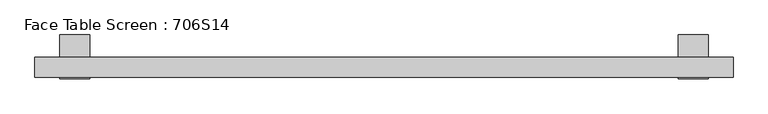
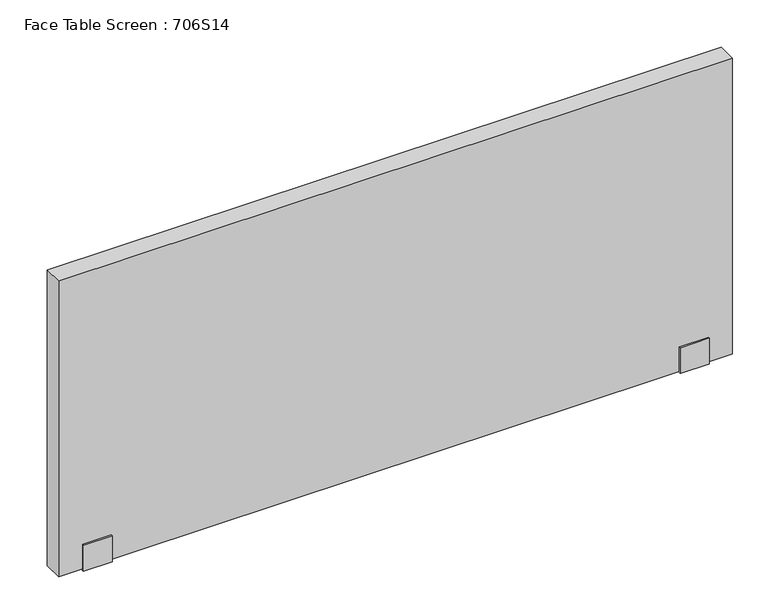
"""IFC4 building model written with IfcOpenShell, lengths in millimetres: furniture geometry, Face Table Screen : 706S14."""

from ifc_helpers import new_model, si_unit, frame, origin, place, context, project, spatial, polyline, outline, extrude, source, transform, mapped, element, save


def face_table_screen_706s14_fd48018f(model_context):
    return source(origin(), model_context, "Body", "SweptSolid", [
        extrude(outline(polyline([(-22.9999947, -156.0), (-22.9999997, -99.0433898), (-20.0, -99.0433898), (-20.0, -153.0), (20.0, -153.0), (20.0, -22.0), (65.0, -22.0), (65.0, -25.0433898), (23.0000062, -25.0433898), (22.9999947, -156.0), (-22.9999947, -156.0)])), frame((590.0, 0.0, 0.0), z_axis=(1.0, 0.0, 0.0), x_axis=(0.0, 1.0, 0.0)), (0.0, 0.0, 1.0), 60.0),
        extrude(outline(polyline([(-22.9999947, -156.0), (-22.9999997, -99.0433898), (-20.0, -99.0433898), (-20.0, -153.0), (20.0, -153.0), (20.0, -22.0), (65.0, -22.0), (65.0, -25.0433898), (23.0000062, -25.0433898), (22.9999947, -156.0), (-22.9999947, -156.0)])), frame((-650.0, 0.0, 0.0), z_axis=(1.0, 0.0, 0.0), x_axis=(0.0, 1.0, 0.0)), (0.0, 0.0, 1.0), 60.0),
        extrude(outline(polyline([(700.0, -20.0), (-700.0, -20.0), (-700.0, 20.0), (700.0, 20.0), (700.0, -20.0)])), frame((0.0, 0.0, -153.0), z_axis=(0.0, 0.0, 1.0), x_axis=(1.0, 0.0, 0.0)), (0.0, 0.0, 1.0), 650.0),
    ])


if __name__ == "__main__":
    model = new_model("IFC4")
    model_context = context("Model", 3, world=origin())
    ifc_project = project(units=[si_unit("LENGTHUNIT", "METRE", prefix="MILLI")], contexts=[model_context])
    site = spatial("IfcSite", under=ifc_project)
    building = spatial("IfcBuilding", under=site)
    placement = place(None, origin())
    face_table_screen_706s14_shape = face_table_screen_706s14_fd48018f(model_context)
    element("IfcFurniture", 1, ObjectType="Face Table Screen : 706S14", at=placement, inside=building, context=model_context, shape_type="MappedRepresentation", body=[
        mapped(face_table_screen_706s14_shape, transform((0.0, 0.0, 0.0), x_axis=(1.0, 0.0, 0.0), y_axis=(0.0, 1.0, 0.0), z_axis=(0.0, 0.0, 1.0))),
    ])
    save(model, "model.ifc")
